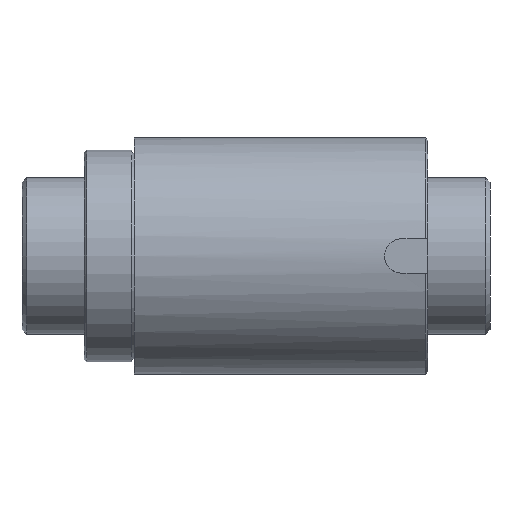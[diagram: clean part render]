
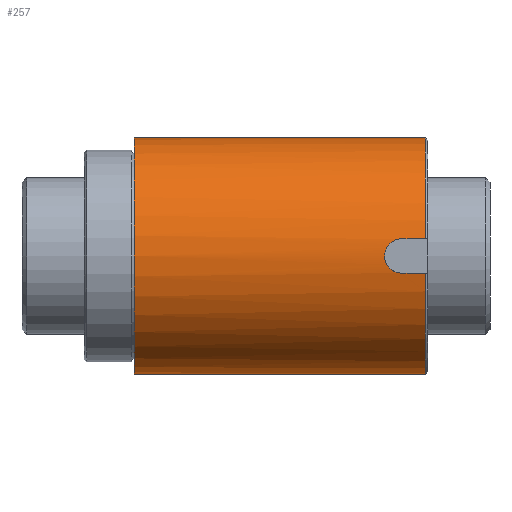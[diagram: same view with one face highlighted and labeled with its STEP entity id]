
A CAD part, front view. The second image highlights one B-rep face of the part: STEP entity #257.
In plain terms, the highlighted cylindrical face has radius 47.5 mm (diameter 95 mm), a partial arc.
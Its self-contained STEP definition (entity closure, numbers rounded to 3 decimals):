
#249=VERTEX_POINT('',#645);
#257=ADVANCED_FACE('',(#653),#654,.T.);
#289=VERTEX_POINT('',#690);
#295=EDGE_CURVE('',#359,#449,#696,.T.);
#297=VERTEX_POINT('',#698);
#335=EDGE_CURVE('',#289,#297,#743,.T.);
#359=VERTEX_POINT('',#767);
#361=EDGE_CURVE('',#449,#463,#769,.T.);
#373=EDGE_CURVE('',#359,#525,#781,.T.);
#391=EDGE_CURVE('',#249,#297,#800,.T.);
#407=EDGE_CURVE('',#539,#289,#820,.T.);
#449=VERTEX_POINT('',#868);
#463=VERTEX_POINT('',#884);
#525=VERTEX_POINT('',#953);
#539=VERTEX_POINT('',#971);
#579=EDGE_CURVE('',#591,#249,#1017,.T.);
#589=EDGE_CURVE('',#591,#463,#1028,.T.);
#591=VERTEX_POINT('',#1030);
#593=EDGE_CURVE('',#525,#539,#1032,.T.);
#645=CARTESIAN_POINT('',(162.05,0.,47.5));
#653=FACE_OUTER_BOUND('',#1096,.T.);
#654=CYLINDRICAL_SURFACE('',#1097,47.5);
#690=CARTESIAN_POINT('',(152.613,-46.992,6.925));
#696=CIRCLE('',#1161,47.5);
#698=CARTESIAN_POINT('',(162.05,-46.992,6.925));
#743=LINE('',#1236,#1237);
#767=CARTESIAN_POINT('',(162.05,-46.992,-6.925));
#769=LINE('',#1284,#1285);
#781=LINE('',#1311,#1312);
#800=CIRCLE('',#1336,47.5);
#820=B_SPLINE_CURVE_WITH_KNOTS('',3,(#1361,#1362,#1363,#1364,#1365,#1366,#1367,#1368,#1369,#1370,#1371,#1372,#1373,#1374,#1375,#1376,#1377,#1378),.UNSPECIFIED.,.F.,.F.,(4,2,2,2,2,2,2,2,4),(10.45,11.757,13.063,14.369,15.675,16.982,18.288,19.594,20.9),.UNSPECIFIED.);
#868=CARTESIAN_POINT('',(162.05,0.,-47.5));
#884=CARTESIAN_POINT('',(45.0,0.,-47.5));
#953=CARTESIAN_POINT('',(152.613,-46.992,-6.925));
#971=CARTESIAN_POINT('',(145.688,-47.5,0.));
#1017=LINE('',#1658,#1659);
#1028=CIRCLE('',#1675,47.5);
#1030=CARTESIAN_POINT('',(45.0,0.0,47.5));
#1032=B_SPLINE_CURVE_WITH_KNOTS('',3,(#1680,#1681,#1682,#1683,#1684,#1685,#1686,#1687,#1688,#1689,#1690,#1691,#1692,#1693,#1694,#1695,#1696,#1697),.UNSPECIFIED.,.F.,.F.,(4,2,2,2,2,2,2,2,4),(0.0,1.306,2.613,3.919,5.225,6.531,7.838,9.144,10.45),.UNSPECIFIED.);
#1096=EDGE_LOOP('',(#1736,#1737,#1738,#1739,#1740,#1741,#1742,#1743,#1744));
#1097=AXIS2_PLACEMENT_3D('',#1745,#1746,#1747);
#1161=AXIS2_PLACEMENT_3D('',#1800,#1801,#1802);
#1236=CARTESIAN_POINT('',(157.331,-46.992,6.925));
#1237=VECTOR('',#1870,1.0);
#1284=CARTESIAN_POINT('',(103.525,0.,-47.5));
#1285=VECTOR('',#1881,1.0);
#1311=CARTESIAN_POINT('',(157.331,-46.992,-6.925));
#1312=VECTOR('',#1890,1.0);
#1336=AXIS2_PLACEMENT_3D('',#1907,#1908,#1909);
#1361=CARTESIAN_POINT('',(145.688,-47.5,0.));
#1362=CARTESIAN_POINT('',(145.688,-47.5,0.435));
#1363=CARTESIAN_POINT('',(145.729,-47.494,0.886));
#1364=CARTESIAN_POINT('',(145.905,-47.469,1.78));
#1365=CARTESIAN_POINT('',(146.039,-47.45,2.225));
#1366=CARTESIAN_POINT('',(146.392,-47.402,3.078));
#1367=CARTESIAN_POINT('',(146.612,-47.373,3.487));
#1368=CARTESIAN_POINT('',(147.12,-47.312,4.243));
#1369=CARTESIAN_POINT('',(147.409,-47.279,4.59));
#1370=CARTESIAN_POINT('',(148.023,-47.215,5.204));
#1371=CARTESIAN_POINT('',(148.37,-47.182,5.492));
#1372=CARTESIAN_POINT('',(149.126,-47.12,6.));
#1373=CARTESIAN_POINT('',(149.534,-47.091,6.22));
#1374=CARTESIAN_POINT('',(150.387,-47.043,6.574));
#1375=CARTESIAN_POINT('',(150.832,-47.024,6.708));
#1376=CARTESIAN_POINT('',(151.727,-46.999,6.883));
#1377=CARTESIAN_POINT('',(152.177,-46.992,6.925));
#1378=CARTESIAN_POINT('',(152.613,-46.992,6.925));
#1658=CARTESIAN_POINT('',(103.525,0.,47.5));
#1659=VECTOR('',#2191,1.0);
#1675=AXIS2_PLACEMENT_3D('',#2202,#2203,#2204);
#1680=CARTESIAN_POINT('',(152.613,-46.992,-6.925));
#1681=CARTESIAN_POINT('',(152.177,-46.992,-6.925));
#1682=CARTESIAN_POINT('',(151.727,-46.999,-6.883));
#1683=CARTESIAN_POINT('',(150.832,-47.024,-6.708));
#1684=CARTESIAN_POINT('',(150.387,-47.043,-6.574));
#1685=CARTESIAN_POINT('',(149.534,-47.091,-6.22));
#1686=CARTESIAN_POINT('',(149.126,-47.12,-6.));
#1687=CARTESIAN_POINT('',(148.37,-47.182,-5.492));
#1688=CARTESIAN_POINT('',(148.023,-47.215,-5.204));
#1689=CARTESIAN_POINT('',(147.409,-47.279,-4.59));
#1690=CARTESIAN_POINT('',(147.12,-47.312,-4.243));
#1691=CARTESIAN_POINT('',(146.612,-47.373,-3.487));
#1692=CARTESIAN_POINT('',(146.392,-47.402,-3.078));
#1693=CARTESIAN_POINT('',(146.039,-47.45,-2.225));
#1694=CARTESIAN_POINT('',(145.905,-47.469,-1.78));
#1695=CARTESIAN_POINT('',(145.729,-47.494,-0.886));
#1696=CARTESIAN_POINT('',(145.688,-47.5,-0.435));
#1697=CARTESIAN_POINT('',(145.688,-47.5,0.));
#1736=ORIENTED_EDGE('',*,*,#579,.F.);
#1737=ORIENTED_EDGE('',*,*,#589,.T.);
#1738=ORIENTED_EDGE('',*,*,#361,.F.);
#1739=ORIENTED_EDGE('',*,*,#295,.F.);
#1740=ORIENTED_EDGE('',*,*,#373,.T.);
#1741=ORIENTED_EDGE('',*,*,#593,.T.);
#1742=ORIENTED_EDGE('',*,*,#407,.T.);
#1743=ORIENTED_EDGE('',*,*,#335,.T.);
#1744=ORIENTED_EDGE('',*,*,#391,.F.);
#1745=CARTESIAN_POINT('',(103.525,0.0,0.0));
#1746=DIRECTION('',(-1.0,-0.0,0.0));
#1747=DIRECTION('',(0.0,0.0,1.0));
#1800=CARTESIAN_POINT('',(162.05,0.0,0.0));
#1801=DIRECTION('',(1.0,0.0,-0.0));
#1802=DIRECTION('',(0.0,0.0,1.0));
#1870=DIRECTION('',(1.0,0.0,0.0));
#1881=DIRECTION('',(-1.0,-0.0,-0.0));
#1890=DIRECTION('',(-1.0,-0.0,-0.0));
#1907=CARTESIAN_POINT('',(162.05,0.0,0.0));
#1908=DIRECTION('',(1.0,0.0,-0.0));
#1909=DIRECTION('',(0.0,0.0,1.0));
#2191=DIRECTION('',(1.0,0.0,0.0));
#2202=CARTESIAN_POINT('',(45.0,0.0,0.0));
#2203=DIRECTION('',(1.0,0.0,-0.0));
#2204=DIRECTION('',(0.0,0.0,1.0));
